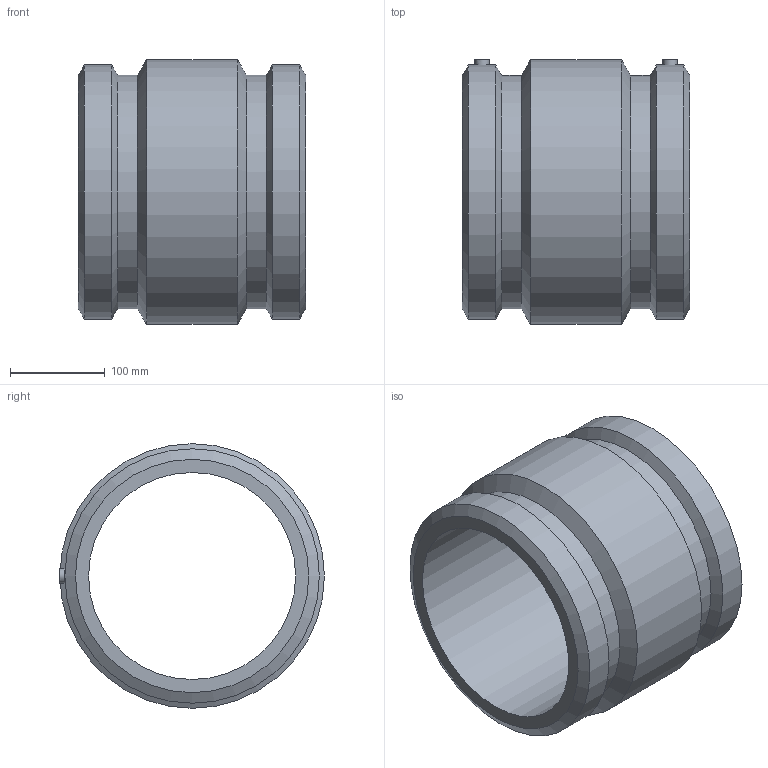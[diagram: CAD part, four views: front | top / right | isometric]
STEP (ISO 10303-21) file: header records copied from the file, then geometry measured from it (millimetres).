
FILE_DESCRIPTION(/* description */ ('PLASSON COUPLER 8''''DIPS'),/* implementation_level */ '2;1');
FILE_NAME(/* name */ 'C:\Dropbox\KIMPROJECTS-Inventor 2019\99-16-3568-Processing Inch\ASTM ElectroFusion 2021\5901D\5901D004080.ipt.stp',/* time_stamp */ '2021-08-30T09:49:06+03:00',/* author */ ('KIM'),/* organization */ (''),/* preprocessor_version */ 'ST-DEVELOPER v17.2',/* originating_system */ 'Autodesk Inventor 2019',/* authorisation */ '');
FILE_SCHEMA (('AUTOMOTIVE_DESIGN { 1 0 10303 214 3 1 1 }'));
Length unit declared in the file: inch
Products named in the file (1): 5901D004080
Bounding box: 240.03 x 279.65 x 279.4 mm (x, y, z)
Volume: 4493816 mm3; surface area: 425196.1 mm2
Topology: 1 solids, 1 shells, 28 faces, 66 edges, 46 vertices
Faces by surface type: cylinder 12, plane 8, cone 6, bspline 2
Full cylindrical faces by diameter (mm): 4 x2, 10 x2, 15 x2, 218.7 x1, 246.319 x2, 268.712 x2, 279.4 x1
Entity records: 1250 total; most frequent: CARTESIAN_POINT 536, DIRECTION 146, ORIENTED_EDGE 132, EDGE_CURVE 66, AXIS2_PLACEMENT_3D 63, VERTEX_POINT 46, CIRCLE 36, EDGE_LOOP 36
